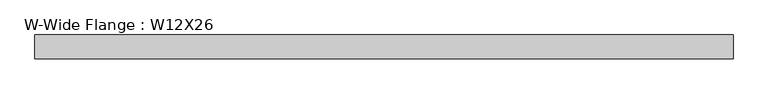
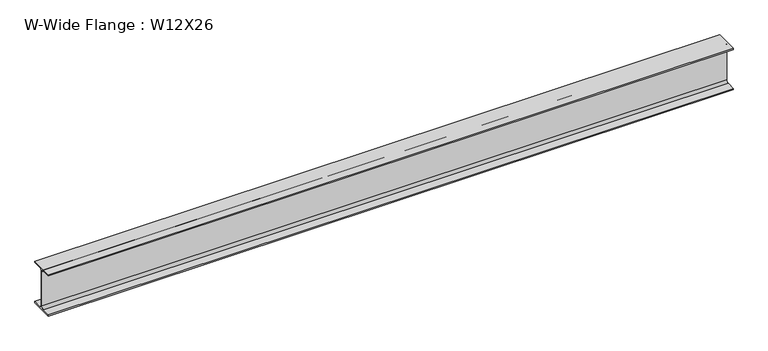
"""IFC4 building model written with IfcOpenShell, lengths in millimetres: beam geometry, W-Wide Flange : W12X26."""

from ifc_helpers import new_model, si_unit, point, frame, frame_2d, origin, place, context, project, spatial, polyline, circle_curve, trimmed, segment, composite_curve, outline, extrude, source, transform, mapped, element, save


def w_wide_flange_w12x26_d550ef31(model_context):
    return source(origin(), model_context, "Body", "SweptSolid", [
        extrude(outline(composite_curve([segment(polyline([(82.423, -145.288), (82.423, -154.94), (-82.423, -154.94), (-82.423, -145.288), (-20.2565, -145.288)]), True, "CONTINUOUS"), segment(trimmed(circle_curve(frame_2d((-20.2565, -127.9525)), 17.3355), [point((-20.2565, -145.288))], [point((-2.921, -127.9525))], True, "CARTESIAN"), True, "CONTINUOUS"), segment(polyline([(-2.921, -127.9525), (-2.921, 127.9525)]), True, "CONTINUOUS"), segment(trimmed(circle_curve(frame_2d((-20.2565, 127.9525)), 17.3355), [point((-2.921, 127.9525))], [point((-20.2565, 145.288))], True, "CARTESIAN"), True, "CONTINUOUS"), segment(polyline([(-20.2565, 145.288), (-82.423, 145.288), (-82.423, 154.94), (82.423, 154.94), (82.423, 145.288), (20.2565, 145.288)]), True, "CONTINUOUS"), segment(trimmed(circle_curve(frame_2d((20.2565, 127.9525)), 17.3355), [point((20.2565, 145.288))], [point((2.921, 127.9525))], True, "CARTESIAN"), True, "CONTINUOUS"), segment(polyline([(2.921, 127.9525), (2.921, -127.9525)]), True, "CONTINUOUS"), segment(trimmed(circle_curve(frame_2d((20.2565, -127.9525)), 17.3355), [point((2.921, -127.9525))], [point((20.2565, -145.288))], True, "CARTESIAN"), True, "CONTINUOUS"), segment(polyline([(20.2565, -145.288), (82.423, -145.288)]), True, "CONTINUOUS")], self_intersect=False)), frame((-2413.127, 0.0, 0.0), z_axis=(1.0, 0.0, 0.0), x_axis=(0.0, 1.0, 0.0)), (0.0, 0.0, 1.0), 4832.604),
    ])


if __name__ == "__main__":
    model = new_model("IFC4")
    model_context = context("Model", 3, world=origin())
    ifc_project = project(units=[si_unit("LENGTHUNIT", "METRE", prefix="MILLI")], contexts=[model_context])
    site = spatial("IfcSite", under=ifc_project)
    building = spatial("IfcBuilding", under=site)
    placement = place(None, origin())
    w_wide_flange_w12x26_shape = w_wide_flange_w12x26_d550ef31(model_context)
    element("IfcBeam", 1, ObjectType="W-Wide Flange : W12X26", at=placement, inside=building, context=model_context, shape_type="MappedRepresentation", body=[
        mapped(w_wide_flange_w12x26_shape, transform((0.0, 0.0, 0.0), x_axis=(1.0, 0.0, 0.0), y_axis=(0.0, 1.0, 0.0), z_axis=(0.0, 0.0, 1.0))),
    ])
    save(model, "model.ifc")
